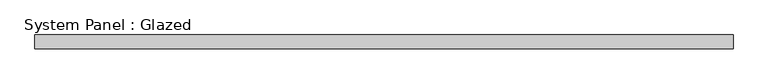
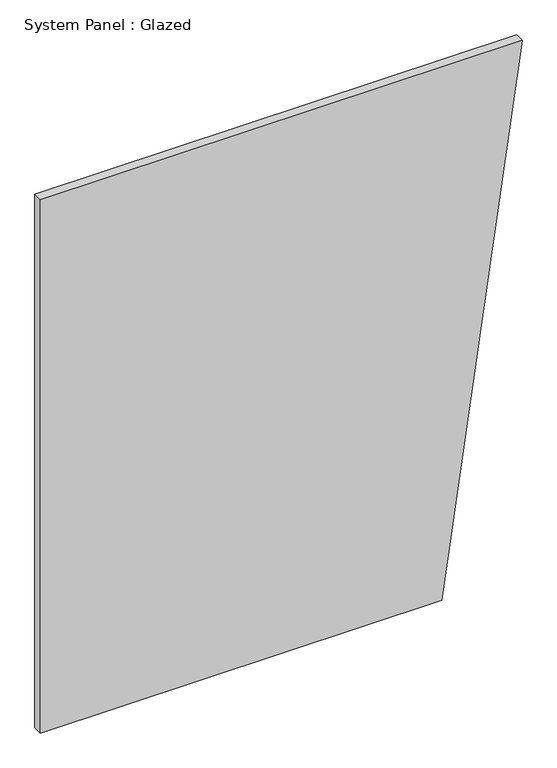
"""IFC4 building model written with IfcOpenShell, lengths in millimetres: plate geometry, System Panel : Glazed."""

from ifc_helpers import new_model, si_unit, frame, origin, place, context, project, spatial, polyline, outline, extrude, source, transform, mapped, element, save


def system_panel_glazed_529520c9(model_context):
    return source(origin(), model_context, "Body", "SweptSolid", [
        extrude(outline(polyline([(0.0, -651.1360653), (0.0, 434.0907102), (1524.0, 651.1360653), (1524.0, -651.1360653), (0.0, -651.1360653)])), frame((0.0, 19.05, 0.0), z_axis=(0.0, 1.0, 0.0), x_axis=(0.0, 0.0, 1.0)), (0.0, 0.0, 1.0), 25.4),
    ])


if __name__ == "__main__":
    model = new_model("IFC4")
    model_context = context("Model", 3, world=origin())
    ifc_project = project(units=[si_unit("LENGTHUNIT", "METRE", prefix="MILLI")], contexts=[model_context])
    site = spatial("IfcSite", under=ifc_project)
    building = spatial("IfcBuilding", under=site)
    placement = place(None, origin())
    system_panel_glazed_shape = system_panel_glazed_529520c9(model_context)
    element("IfcPlate", 1, ObjectType="System Panel : Glazed", at=placement, inside=building, context=model_context, shape_type="MappedRepresentation", body=[
        mapped(system_panel_glazed_shape, transform((0.0, 0.0, 0.0), x_axis=(1.0, 0.0, 0.0), y_axis=(0.0, 1.0, 0.0), z_axis=(0.0, 0.0, 1.0))),
    ])
    save(model, "model.ifc")
